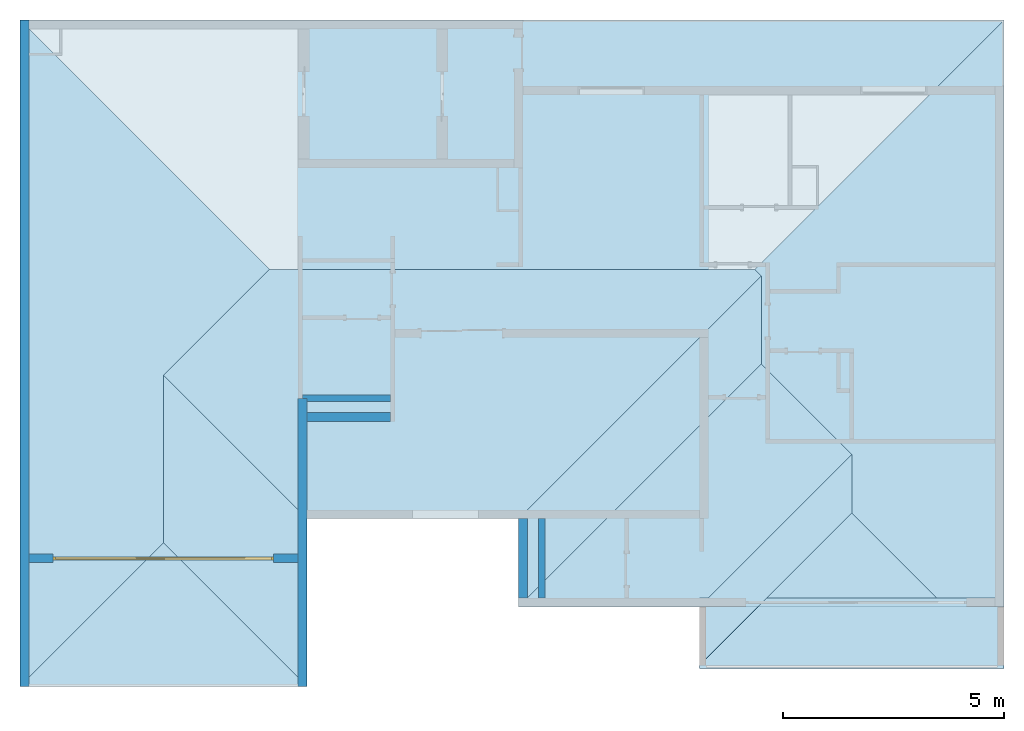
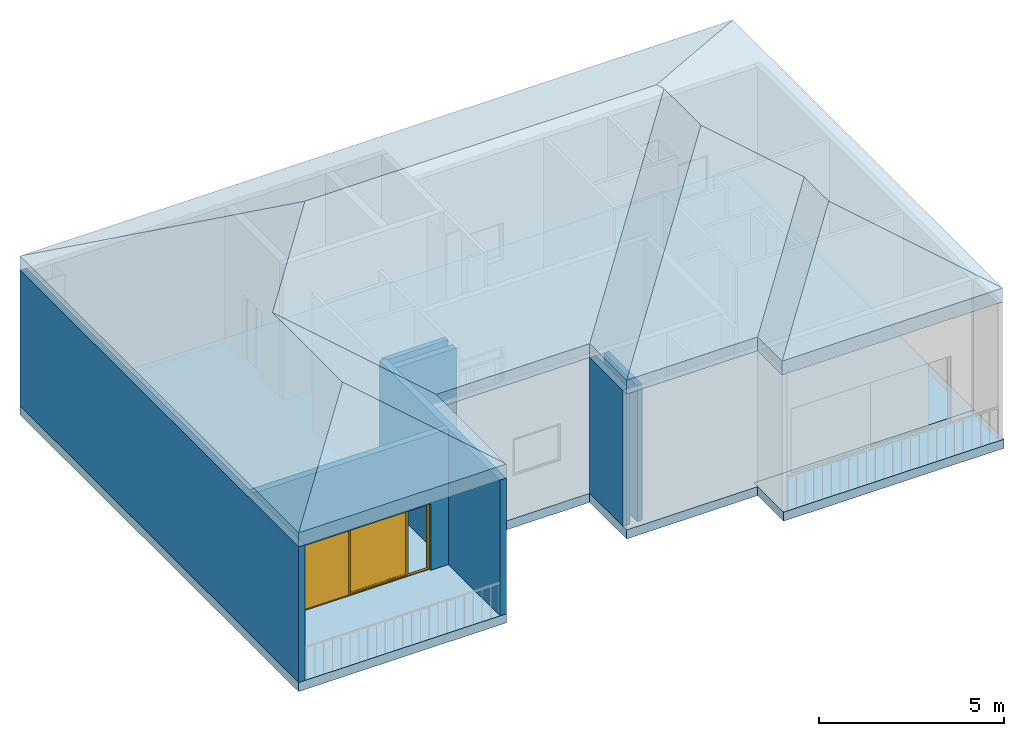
# One storey, part 1 of 8: 12 slabs, 7 walls, 1 door, 1 opening, 1 element without a shape of its own.
"""IFC2X3 building model written with IfcOpenShell, lengths in metres."""

from ifc_helpers import new_model, entity, si_unit, converted_unit, derived_unit, direction, frame, frame_2d, origin, origin_2d_with_axis, place, context, subcontext, project, spatial, polyline, rectangle, outline, extrude, faceted_brep, source, transform, mapped, material, material_list, layer, layer_set, layer_usage, type_object, type_shapes, element, fill, aggregate, save


model = new_model("IFC2X3")

# Units and contexts
model_context = context("Model", 3, precision=1e-05, world=origin(), true_north=direction((6.123031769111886e-17, 1.0)))
body_context = subcontext(model_context, "Body", "Model", "MODEL_VIEW")
ifc_project = project(units=[si_unit("LENGTHUNIT", "METRE"), si_unit("AREAUNIT", "SQUARE_METRE"), si_unit("VOLUMEUNIT", "CUBIC_METRE"), converted_unit("PLANEANGLEUNIT", "DEGREE", entity("IfcRatioMeasure", 0.017453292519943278), si_unit("PLANEANGLEUNIT", "RADIAN"), dimensions=[0, 0, 0, 0, 0, 0, 0]), si_unit("MASSUNIT", "GRAM", prefix="KILO"), derived_unit("MASSDENSITYUNIT", [(si_unit("MASSUNIT", "GRAM", prefix="KILO"), 1), (si_unit("LENGTHUNIT", "METRE"), -3)]), derived_unit("MOMENTOFINERTIAUNIT", [(si_unit("LENGTHUNIT", "METRE"), 4)]), si_unit("TIMEUNIT", "SECOND"), si_unit("FREQUENCYUNIT", "HERTZ"), si_unit("THERMODYNAMICTEMPERATUREUNIT", "DEGREE_CELSIUS"), derived_unit("THERMALTRANSMITTANCEUNIT", [(si_unit("MASSUNIT", "GRAM", prefix="KILO"), 1), (si_unit("THERMODYNAMICTEMPERATUREUNIT", "KELVIN"), -1), (si_unit("TIMEUNIT", "SECOND"), -3)]), derived_unit("VOLUMETRICFLOWRATEUNIT", [(si_unit("LENGTHUNIT", "METRE"), 3), (si_unit("TIMEUNIT", "SECOND"), -1)]), derived_unit("MASSFLOWRATEUNIT", [(si_unit("MASSUNIT", "GRAM", prefix="KILO"), 1), (si_unit("TIMEUNIT", "SECOND"), -1)]), derived_unit("ROTATIONALFREQUENCYUNIT", [(si_unit("TIMEUNIT", "SECOND"), -1)]), si_unit("ELECTRICCURRENTUNIT", "AMPERE"), si_unit("ELECTRICVOLTAGEUNIT", "VOLT"), si_unit("POWERUNIT", "WATT"), si_unit("FORCEUNIT", "NEWTON", prefix="KILO"), si_unit("ILLUMINANCEUNIT", "LUX"), si_unit("LUMINOUSFLUXUNIT", "LUMEN"), si_unit("LUMINOUSINTENSITYUNIT", "CANDELA"), derived_unit("USERDEFINED", [(si_unit("MASSUNIT", "GRAM", prefix="KILO"), -1), (si_unit("LENGTHUNIT", "METRE"), -2), (si_unit("TIMEUNIT", "SECOND"), 3), (si_unit("LUMINOUSFLUXUNIT", "LUMEN"), 1)]), derived_unit("SOUNDPOWERUNIT", [(si_unit("MASSUNIT", "GRAM", prefix="KILO"), 1), (si_unit("LENGTHUNIT", "METRE"), 2), (si_unit("TIMEUNIT", "SECOND"), -3)]), derived_unit("SOUNDPRESSUREUNIT", [(si_unit("MASSUNIT", "GRAM", prefix="KILO"), 1), (si_unit("LENGTHUNIT", "METRE"), -1), (si_unit("TIMEUNIT", "SECOND"), -2)]), derived_unit("LINEARVELOCITYUNIT", [(si_unit("LENGTHUNIT", "METRE"), 1), (si_unit("TIMEUNIT", "SECOND"), -1)]), si_unit("PRESSUREUNIT", "PASCAL"), derived_unit("USERDEFINED", [(si_unit("LENGTHUNIT", "METRE"), -2), (si_unit("MASSUNIT", "GRAM", prefix="KILO"), 1), (si_unit("TIMEUNIT", "SECOND"), -2)]), derived_unit("LINEARFORCEUNIT", [(si_unit("MASSUNIT", "GRAM", prefix="KILO"), 1), (si_unit("LENGTHUNIT", "METRE"), 1), (si_unit("TIMEUNIT", "SECOND"), -2), (si_unit("LENGTHUNIT", "METRE"), -1)]), derived_unit("PLANARFORCEUNIT", [(si_unit("MASSUNIT", "GRAM", prefix="KILO"), 1), (si_unit("LENGTHUNIT", "METRE"), 1), (si_unit("TIMEUNIT", "SECOND"), -2), (si_unit("LENGTHUNIT", "METRE"), -2)])], contexts=[model_context])

# Site, building, storey
site_placement = place(None, origin())
site = spatial("IfcSite", under=ifc_project, at=site_placement, Name="Default", CompositionType="ELEMENT")
building_placement = place(site_placement, origin())
building = spatial("IfcBuilding", under=site, at=building_placement, CompositionType="ELEMENT")
storey_placement = place(building_placement, frame((0.0, 0.0, 5.639999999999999)))
storey = spatial("IfcBuildingStorey", under=building, at=storey_placement, Name="F1", CompositionType="ELEMENT", Elevation=5.639999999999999)

# Slabs
ifc_material_1 = material(Name="Default Floor")
ifc_layer_1 = layer(ifc_material_1, 0.29999999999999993)
ifc_layer_set_1 = layer_set([ifc_layer_1], Name="Floor:Generic 300mm")
ifc_layer_usage_1 = layer_usage(ifc_layer_set_1, "AXIS3", "POSITIVE", 0.0)
slab_type_1 = type_object("IfcSlabType", Name="Floor:Generic 300mm", PredefinedType="FLOOR", material=ifc_layer_set_1)
slab_1_placement = place(storey_placement, origin())
element("IfcSlab", 1, at=slab_1_placement, inside=storey, type_object=slab_type_1, material=ifc_layer_usage_1, Name="Floor:Generic 300mm", ObjectType="Floor:Generic 300mm", PredefinedType="FLOOR", context=body_context, shape_type="SweptSolid", body=[
    extrude(outline(polyline([(-5.174999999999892, -10.025000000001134), (9.924999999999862, -10.025000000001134), (9.924999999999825, 12.275000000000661), (-3.375000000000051, 12.275000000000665), (-3.375000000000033, 1.2750000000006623), (-1.3749999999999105, 1.275000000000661), (-1.3749999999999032, -3.525000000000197), (-5.174999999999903, -3.525000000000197), (-5.174999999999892, -10.025000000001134)])), frame((16.63268321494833, -3.922392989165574, 0.0), z_axis=(0.0, 0.0, -1.0), x_axis=(0.0, 1.0, 0.0)), (0.0, 0.0, 1.0), 0.30000000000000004),
])
ifc_layer_usage_2 = layer_usage(ifc_layer_set_1, "AXIS3", "POSITIVE", 0.0)
slab_type_2 = type_object("IfcSlabType", Name="Floor:Generic 300mm", PredefinedType="FLOOR", material=ifc_layer_set_1)
slab_2_placement = place(storey_placement, origin())
element("IfcSlab", 2, at=slab_2_placement, inside=storey, type_object=slab_type_2, material=ifc_layer_usage_2, Name="Floor:Generic 300mm", ObjectType="Floor:Generic 300mm", PredefinedType="FLOOR", context=body_context, shape_type="SweptSolid", body=[
    extrude(rectangle(XDim=1.6000000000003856, YDim=6.899999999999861, at=origin_2d_with_axis()), frame((25.457683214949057, -7.8973929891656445, 0.0), z_axis=(0.0, 0.0, -1.0), x_axis=(0.0, 1.0, 0.0)), (0.0, 0.0, 1.0), 0.30000000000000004),
])

# Roof, slabs
ifc_material_2 = material(Name="Default Roof")
ifc_layer_2 = layer(ifc_material_2, 0.4)
ifc_layer_set_2 = layer_set([ifc_layer_2], Name="Basic Roof:Generic - 400mm")
roof_placement = place(storey_placement, frame((6.607683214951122, -9.09739298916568, 4.49)))
roof = element("IfcRoof", 3, at=roof_placement, inside=storey, material=ifc_layer_set_2, Name="Basic Roof:Generic - 400mm", ObjectType="Basic Roof:Generic - 400mm", ShapeType="NOTDEFINED")
slab_type_3 = type_object("IfcSlabType", Name="Basic Roof:Generic - 400mm", PredefinedType="ROOF")
slab_3_placement = place(roof_placement, origin())
slab_3 = element("IfcSlab", 4, at=slab_3_placement, type_object=slab_type_3, material=ifc_layer_set_2, Name="Basic Roof:Generic - 400mm", ObjectType="Basic Roof:Generic - 400mm", PredefinedType="ROOF", context=body_context, shape_type="SweptSolid", body=[
    extrude(outline(polyline([(-3.2499999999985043, -1.8763883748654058), (3.2499999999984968, -1.8763883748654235), (0.0, 1.8763883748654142), (-3.2499999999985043, -1.8763883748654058)])), frame((3.249999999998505, 1.624999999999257, 0.9381941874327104), z_axis=(0.0, -0.5000000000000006, 0.8660254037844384), x_axis=(1.0, 0.0, 0.0)), (0.0, 0.5000000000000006, 0.8660254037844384), 0.4618802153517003),
])
slab_type_4 = type_object("IfcSlabType", Name="Basic Roof:Generic - 400mm", PredefinedType="ROOF")
slab_4_placement = place(roof_placement, origin())
slab_4 = element("IfcSlab", 5, at=slab_4_placement, type_object=slab_type_4, material=ifc_layer_set_2, Name="Basic Roof:Generic - 400mm", ObjectType="Basic Roof:Generic - 400mm", PredefinedType="ROOF", context=body_context, shape_type="SweptSolid", body=[
    extrude(outline(polyline([(0.4899106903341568, -4.300000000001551), (0.48991069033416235, -0.5028995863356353), (3.2628660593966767, 1.8985502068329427), (-3.262866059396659, 7.550000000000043), (-3.262866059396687, -7.550000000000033), (0.4899106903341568, -4.300000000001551)])), frame((2.825724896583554, 7.550000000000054, 1.6314330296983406), z_axis=(-0.5000000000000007, 0.0, 0.8660254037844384), x_axis=(0.8660254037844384, 0.0, 0.5000000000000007)), (0.5000000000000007, 0.0, 0.8660254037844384), 0.4618802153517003),
])
slab_type_5 = type_object("IfcSlabType", Name="Basic Roof:Generic - 400mm", PredefinedType="ROOF")
slab_5_placement = place(roof_placement, origin())
slab_5 = element("IfcSlab", 6, at=slab_5_placement, type_object=slab_type_5, material=ifc_layer_set_2, Name="Basic Roof:Generic - 400mm", ObjectType="Basic Roof:Generic - 400mm", PredefinedType="ROOF", context=body_context, shape_type="SweptSolid", body=[
    extrude(outline(polyline([(11.149999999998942, 3.262866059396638), (-11.149999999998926, 3.2628660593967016), (-5.498550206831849, -3.262866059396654), (5.498550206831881, -3.262866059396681), (11.149999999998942, 3.262866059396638)])), frame((11.149999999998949, 12.27427510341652, 1.6314330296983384), z_axis=(0.0, 0.5000000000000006, 0.8660254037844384), x_axis=(1.0, 0.0, 0.0)), (0.0, -0.5000000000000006, 0.8660254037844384), 0.4618802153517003),
])
slab_type_6 = type_object("IfcSlabType", Name="Basic Roof:Generic - 400mm", PredefinedType="ROOF")
slab_6_placement = place(roof_placement, origin())
slab_6 = element("IfcSlab", 7, at=slab_6_placement, type_object=slab_type_6, material=ifc_layer_set_2, Name="Basic Roof:Generic - 400mm", ObjectType="Basic Roof:Generic - 400mm", PredefinedType="ROOF", context=body_context, shape_type="SweptSolid", body=[
    extrude(outline(polyline([(3.262866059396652, -7.312500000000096), (3.262866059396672, 7.312500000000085), (-3.2628660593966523, 1.661050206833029), (-3.0879869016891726, 1.509600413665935), (-3.087986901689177, -0.48749999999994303), (-0.7208507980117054, -2.537499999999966), (-0.7208507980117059, -3.862500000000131), (3.262866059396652, -7.312500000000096)])), frame((19.474275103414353, 7.7874999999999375, 1.6314330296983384), z_axis=(0.5000000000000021, 0.0, 0.8660254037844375), x_axis=(0.8660254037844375, 0.0, -0.5000000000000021)), (-0.5000000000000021, 0.0, 0.8660254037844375), 0.4618802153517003),
])
slab_type_7 = type_object("IfcSlabType", Name="Basic Roof:Generic - 400mm", PredefinedType="ROOF")
slab_7_placement = place(roof_placement, origin())
slab_7 = element("IfcSlab", 8, at=slab_7_placement, type_object=slab_type_7, material=ifc_layer_set_2, Name="Basic Roof:Generic - 400mm", ObjectType="Basic Roof:Generic - 400mm", PredefinedType="ROOF", context=body_context, shape_type="SweptSolid", body=[
    extrude(outline(polyline([(-3.4499999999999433, -1.9918584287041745), (3.449999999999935, -1.991858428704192), (0.0, 1.9918584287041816), (-3.4499999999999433, -1.9918584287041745)])), frame((18.849999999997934, 2.19999999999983, 0.9959292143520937), z_axis=(0.0, -0.5000000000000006, 0.8660254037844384), x_axis=(1.0, 0.0, 0.0)), (0.0, 0.5000000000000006, 0.8660254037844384), 0.4618802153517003),
])
slab_type_8 = type_object("IfcSlabType", Name="Basic Roof:Generic - 400mm", PredefinedType="ROOF")
slab_8_placement = place(roof_placement, origin())
slab_8 = element("IfcSlab", 9, at=slab_8_placement, type_object=slab_type_8, material=ifc_layer_set_2, Name="Basic Roof:Generic - 400mm", ObjectType="Basic Roof:Generic - 400mm", PredefinedType="ROOF", context=body_context, shape_type="SweptSolid", body=[
    extrude(outline(polyline([(-1.9918584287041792, -2.387500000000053), (1.9918584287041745, 1.0624999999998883), (1.9918584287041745, 2.3875000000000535), (-1.9918584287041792, -1.062499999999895), (-1.9918584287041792, -2.387500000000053)])), frame((17.124999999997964, 2.8624999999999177, 0.9959292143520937), z_axis=(-0.5000000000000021, 0.0, 0.8660254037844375), x_axis=(0.8660254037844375, 0.0, 0.5000000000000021)), (0.5000000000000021, 0.0, 0.8660254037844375), 0.4618802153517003),
])
slab_type_9 = type_object("IfcSlabType", Name="Basic Roof:Generic - 400mm", PredefinedType="ROOF")
slab_9_placement = place(roof_placement, origin())
slab_9 = element("IfcSlab", 10, at=slab_9_placement, type_object=slab_type_9, material=ifc_layer_set_2, Name="Basic Roof:Generic - 400mm", ObjectType="Basic Roof:Generic - 400mm", PredefinedType="ROOF", context=body_context, shape_type="SweptSolid", body=[
    extrude(outline(polyline([(-3.7750000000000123, -3.175426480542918), (0.32500000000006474, -3.1754264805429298), (3.775000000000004, 0.808290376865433), (1.7249999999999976, 3.1754264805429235), (-3.7750000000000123, -3.175426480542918)])), frame((15.074999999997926, 4.550000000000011, 1.5877132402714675), z_axis=(0.0, -0.5000000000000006, 0.8660254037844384), x_axis=(1.0, 0.0, 0.0)), (0.0, 0.5000000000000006, 0.8660254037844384), 0.4618802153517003),
])
slab_type_10 = type_object("IfcSlabType", Name="Basic Roof:Generic - 400mm", PredefinedType="ROOF")
slab_10_placement = place(roof_placement, origin())
slab_10 = element("IfcSlab", 11, at=slab_10_placement, type_object=slab_type_10, material=ifc_layer_set_2, Name="Basic Roof:Generic - 400mm", ObjectType="Basic Roof:Generic - 400mm", PredefinedType="ROOF", context=body_context, shape_type="SweptSolid", body=[
    extrude(outline(polyline([(-3.1754264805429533, -3.748550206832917), (3.175426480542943, 1.7514497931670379), (3.1754264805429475, 3.748550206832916), (-3.175426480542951, -1.7514497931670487), (-3.1754264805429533, -3.748550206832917)])), frame((14.049999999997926, 5.548550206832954, 1.5877132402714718), z_axis=(-0.499999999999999, 0.0, 0.8660254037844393), x_axis=(0.8660254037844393, 0.0, 0.499999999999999)), (0.499999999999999, 0.0, 0.8660254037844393), 0.4618802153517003),
])
slab_type_11 = type_object("IfcSlabType", Name="Basic Roof:Generic - 400mm", PredefinedType="ROOF")
slab_11_placement = place(roof_placement, origin())
slab_11 = element("IfcSlab", 12, at=slab_11_placement, type_object=slab_type_11, material=ifc_layer_set_2, Name="Basic Roof:Generic - 400mm", ObjectType="Basic Roof:Generic - 400mm", PredefinedType="ROOF", context=body_context, shape_type="SweptSolid", body=[
    extrude(outline(polyline([(-3.5250000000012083, -3.26286605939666), (1.2749999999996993, -3.2628660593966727), (6.774999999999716, 3.08798690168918), (6.623550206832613, 3.2628660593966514), (-4.373550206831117, 3.2628660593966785), (-6.774999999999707, 0.48991069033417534), (-3.5250000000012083, -3.26286605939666)])), frame((10.024999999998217, 6.622825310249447, 1.6314330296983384), z_axis=(0.0, -0.5000000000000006, 0.8660254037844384), x_axis=(1.0, 0.0, 0.0)), (0.0, 0.5000000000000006, 0.8660254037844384), 0.4618802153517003),
])
slab_type_12 = type_object("IfcSlabType", Name="Basic Roof:Generic - 400mm", PredefinedType="ROOF")
slab_12_placement = place(roof_placement, origin())
slab_12 = element("IfcSlab", 13, at=slab_12_placement, type_object=slab_type_12, material=ifc_layer_set_2, Name="Basic Roof:Generic - 400mm", ObjectType="Basic Roof:Generic - 400mm", PredefinedType="ROOF", context=body_context, shape_type="SweptSolid", body=[
    extrude(outline(polyline([(1.8763883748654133, -3.52355020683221), (1.8763883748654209, 0.2735502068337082), (-1.8763883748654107, 3.523550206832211), (-1.876388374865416, -0.273550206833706), (1.8763883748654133, -3.52355020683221)])), frame((4.874999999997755, 3.52355020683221, 0.9381941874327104), z_axis=(0.499999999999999, 0.0, 0.8660254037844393), x_axis=(0.8660254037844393, 0.0, -0.499999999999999)), (-0.499999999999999, 0.0, 0.8660254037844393), 0.4618802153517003),
])
aggregate(roof, [slab_3, slab_4, slab_5, slab_6, slab_7, slab_8, slab_9, slab_10, slab_11, slab_12])

# Walls
ifc_material_3 = material(Name="Masonry - Concrete Block")
ifc_layer_3 = layer(ifc_material_3, 0.2)
ifc_layer_set_3 = layer_set([ifc_layer_3], Name="Basic Wall:CW 200")
ifc_layer_usage_3 = layer_usage(ifc_layer_set_3, "AXIS2", "NEGATIVE", 0.1)
wall_type_1 = type_object("IfcWallType", Name="Basic Wall:CW 200", PredefinedType="STANDARD", material=ifc_layer_set_3)
wall_1_placement = place(storey_placement, frame((6.707683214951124, -9.097392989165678, 0.0), z_axis=(0.0, 0.0, 1.0), x_axis=(0.0, 1.0, 0.0)))
element("IfcWallStandardCase", 14, at=wall_1_placement, inside=storey, type_object=wall_type_1, material=ifc_layer_usage_3, Name="Basic Wall:CW 200", ObjectType="Basic Wall:CW 200", context=body_context, shape_type="SweptSolid", body=[
    extrude(rectangle(XDim=15.100000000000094, YDim=0.2, at=frame_2d((7.550000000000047, 1.5959455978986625e-16), x_axis=(-1.0, 0.0))), origin(), (0.0, 0.0, 1.0), 4.490000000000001),
])
ifc_layer_usage_4 = layer_usage(ifc_layer_set_3, "AXIS2", "NEGATIVE", 0.1)
wall_2_placement = place(storey_placement, frame((13.007683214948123, -9.097392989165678, 0.0), z_axis=(0.0, 0.0, 1.0), x_axis=(0.0, 1.0, 0.0)))
element("IfcWallStandardCase", 15, at=wall_2_placement, inside=storey, type_object=wall_type_1, material=ifc_layer_usage_4, Name="Basic Wall:CW 200", ObjectType="Basic Wall:CW 200", context=body_context, shape_type="SweptSolid", body=[
    extrude(rectangle(XDim=6.52500000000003, YDim=0.19999999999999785, at=frame_2d((3.262500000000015, -3.469446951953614e-17), x_axis=(-1.0, 0.0))), origin(), (0.0, 0.0, 1.0), 4.490000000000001),
])

# Wall, opening, door
ifc_layer_usage_5 = layer_usage(ifc_layer_set_3, "AXIS2", "NEGATIVE", 0.1)
wall_3_placement = place(storey_placement, frame((12.907683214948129, -6.197392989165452, 0.0), z_axis=(0.0, 0.0, 1.0), x_axis=(-1.0, 0.0, 0.0)))
wall_3 = element("IfcWallStandardCase", 16, at=wall_3_placement, inside=storey, type_object=wall_type_1, material=ifc_layer_usage_5, Name="Basic Wall:CW 200", ObjectType="Basic Wall:CW 200", context=body_context, shape_type="SweptSolid", body=[
    extrude(rectangle(XDim=6.099999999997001, YDim=0.2, at=frame_2d((3.0499999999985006, 0.0), x_axis=(1.0, 0.0))), origin(), (0.0, 0.0, 1.0), 4.490000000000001),
])
opening_placement = place(wall_3_placement, frame((5.549999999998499, 0.09999999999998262, 0.0)))
opening = element("IfcOpeningElement", 17, at=opening_placement, cuts=wall_3, Name="Parametric_Operable_Sliding_Door_6386.0004:5M:1", ObjectType="Opening", context=body_context, shape_type="SweptSolid", body=[
    extrude(rectangle(XDim=2.199999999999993, YDim=4.999999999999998, at=frame_2d((1.0999999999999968, 2.499999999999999), x_axis=(1.0, 0.0))), frame((0.0, 0.0, 0.0), z_axis=(0.0, -1.0, 0.0), x_axis=(0.0, 0.0, 1.0)), (0.0, 0.0, 1.0), 0.2),
])
ifc_material_4 = material(Name="Window Glass")
ifc_material_5 = material(Name="Window Frame")
ifc_material_list_1 = material_list([ifc_material_4, ifc_material_5])
ifc_material_list_2 = material_list([ifc_material_4, ifc_material_5, ifc_material_4, ifc_material_5])
door_style = type_object("IfcDoorStyle", Name="Parametric_Operable_Sliding_Door_6386.0004:5M", ConstructionType="NOTDEFINED", OperationType="NOTDEFINED", ParameterTakesPrecedence=False, Sizeable=False, material=ifc_material_list_2)
shared_shape = source(origin(), body_context, "Body", "Brep", [
    faceted_brep([(0.7200000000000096, 0.0875000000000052, 2.080000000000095), (0.7200000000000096, 0.0875000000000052, 0.07000000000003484), (0.7200000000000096, 0.0775000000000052, 0.07000000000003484), (0.7200000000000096, 0.0775000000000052, 2.080000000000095), (3.0550000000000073, 0.0875000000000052, 2.080000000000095), (3.0550000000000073, 0.0875000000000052, 0.07000000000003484), (3.0550000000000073, 0.0775000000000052, 0.07000000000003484), (3.0550000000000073, 0.0775000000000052, 2.080000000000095)], [[[0, 1, 2, 3]], [[1, 0, 4, 5]], [[2, 1, 5, 6]], [[3, 2, 6, 7]], [[4, 7, 6, 5]], [[0, 3, 7, 4]]]),
    faceted_brep([(0.7200000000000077, 0.09499999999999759, 0.06999999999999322), (0.7200000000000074, 0.06999999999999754, 0.06999999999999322), (3.055000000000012, 0.06999999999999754, 0.06999999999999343), (3.055000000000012, 0.09499999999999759, 0.0699999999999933), (0.7200000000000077, 0.09499999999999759, 2.080000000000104), (0.7200000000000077, 0.06999999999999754, 2.080000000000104), (3.05500000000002, 0.09499999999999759, 2.080000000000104), (3.125000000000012, 0.09499999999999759, 2.150000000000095), (3.125000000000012, 0.09499999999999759, 0.02500000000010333), (0.6500000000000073, 0.09499999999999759, 0.0250000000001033), (0.6500000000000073, 0.09499999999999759, 2.1499999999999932), (3.055000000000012, 0.06999999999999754, 2.080000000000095), (0.6500000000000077, 0.06999999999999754, 2.1500000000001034), (0.6500000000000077, 0.06999999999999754, 0.02500000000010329), (3.125000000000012, 0.06999999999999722, 0.02500000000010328), (3.125000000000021, 0.06999999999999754, 2.1499999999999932), (0.04999999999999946, 0.06500000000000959, 0.02500000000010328), (4.949999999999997, 0.06499999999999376, 0.025000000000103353), (4.949999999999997, 0.13499999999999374, 0.025000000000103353), (0.05, 0.13500000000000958, 0.02500000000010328), (5.0, 0.0649999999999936, 0.0), (5.0, 0.0649999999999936, 2.199999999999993), (0.0, 0.06500000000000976, 2.199999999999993), (0.0, 0.06500000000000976, 0.0), (0.05, 0.06500000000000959, 2.1499999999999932), (4.949999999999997, 0.06499999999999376, 2.1499999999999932), (0.0, 0.13500000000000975, 0.0), (5.0, 0.1349999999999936, 0.0), (0.0, 0.13500000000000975, 2.199999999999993), (5.0, 0.1349999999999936, 2.199999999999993), (0.05, 0.13500000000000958, 2.1499999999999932), (4.949999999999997, 0.13499999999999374, 2.1499999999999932)], [[[0, 1, 2, 3]], [[1, 0, 4, 5]], [[4, 0, 3, 6], [7, 8, 9, 10]], [[1, 5, 11, 2], [12, 13, 14, 15]], [[13, 12, 10, 9]], [[13, 9, 8, 14], [16, 17, 18, 19]], [[11, 6, 3, 2]], [[15, 14, 8, 7]], [[20, 21, 22, 23], [24, 25, 17, 16]], [[20, 23, 26, 27]], [[23, 22, 28, 26]], [[27, 26, 28, 29], [30, 19, 18, 31]], [[21, 20, 27, 29]], [[17, 25, 31, 18]], [[24, 16, 19, 30]], [[5, 4, 6, 11]], [[22, 21, 29, 28]], [[10, 12, 15, 7], [25, 24, 30, 31]]], outer=[[True], [True], [False, True], [False, True], [True], [False, True], [True], [True], [True, False], [True], [True], [True, False], [True], [True], [True], [True], [True], [False, True]]),
    faceted_brep([(2.5249999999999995, 0.11499999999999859, 2.1499999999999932), (2.5249999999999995, 0.11499999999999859, 0.02500000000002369), (4.949999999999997, 0.11499999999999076, 0.02500000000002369), (4.949999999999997, 0.11499999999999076, 2.1499999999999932), (2.5249999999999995, 0.12099999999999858, 2.1499999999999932), (2.5249999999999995, 0.12099999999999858, 0.02500000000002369), (4.949999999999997, 0.12099999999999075, 0.02500000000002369), (4.949999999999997, 0.12099999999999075, 2.1499999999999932)], [[[0, 1, 2, 3]], [[1, 0, 4, 5]], [[2, 1, 5, 6]], [[3, 2, 6, 7]], [[4, 7, 6, 5]], [[0, 3, 7, 4]]]),
    faceted_brep([(2.474999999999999, 0.09999999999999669, 2.1499999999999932), (2.474999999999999, 0.09999999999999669, 0.025000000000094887), (2.5249999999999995, 0.09999999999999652, 0.02500000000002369), (2.5249999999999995, 0.09999999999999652, 2.1499999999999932), (2.474999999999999, 0.1300000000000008, 2.1499999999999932), (2.474999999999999, 0.1300000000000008, 0.025000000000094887), (2.5249999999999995, 0.13000000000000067, 0.02500000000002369), (2.5249999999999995, 0.13000000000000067, 2.1499999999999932)], [[[0, 1, 2, 3]], [[1, 0, 4, 5]], [[2, 1, 5, 6]], [[3, 2, 6, 7]], [[4, 7, 6, 5]], [[0, 3, 7, 4]]]),
])
type_shapes(door_style, [shared_shape])
door_placement = place(opening_placement, frame((-5.0, -0.1999999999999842, 0.0)))
door = element("IfcDoor", 18, at=door_placement, inside=storey, type_object=door_style, material=ifc_material_list_1, Name="Parametric_Operable_Sliding_Door_6386.0004:5M", ObjectType="Parametric_Operable_Sliding_Door_6386.0004:5M", OverallHeight=2.1999999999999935, OverallWidth=4.999999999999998, context=body_context, shape_type="MappedRepresentation", body=[
    mapped(shared_shape, transform((0.0, 0.0, 0.0), scale=1.0)),
])
fill(opening, door)

# Walls
ifc_layer_usage_6 = layer_usage(ifc_layer_set_3, "AXIS2", "NEGATIVE", 0.1)
wall_4_placement = place(storey_placement, frame((13.107683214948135, -2.997392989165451, 0.0)))
element("IfcWallStandardCase", 19, at=wall_4_placement, inside=storey, type_object=wall_type_1, material=ifc_layer_usage_6, Name="Basic Wall:CW 200", ObjectType="Basic Wall:CW 200", context=body_context, shape_type="SweptSolid", body=[
    extrude(rectangle(XDim=1.900000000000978, YDim=0.2, at=frame_2d((0.950000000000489, 1.1102230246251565e-16), x_axis=(-1.0, 0.0))), origin(), (0.0, 0.0, 1.0), 4.490000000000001),
])
ifc_layer_usage_7 = layer_usage(ifc_layer_set_3, "AXIS2", "NEGATIVE", 0.1)
wall_5_placement = place(storey_placement, frame((18.007683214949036, -7.097392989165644, 0.0), z_axis=(0.0, 0.0, 1.0), x_axis=(0.0, 1.0, 0.0)))
element("IfcWallStandardCase", 20, at=wall_5_placement, inside=storey, type_object=wall_type_1, material=ifc_layer_usage_7, Name="Basic Wall:CW 200", ObjectType="Basic Wall:CW 200", context=body_context, shape_type="SweptSolid", body=[
    extrude(rectangle(XDim=1.7971004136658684, YDim=0.19999999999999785, at=frame_2d((0.8985502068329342, -5.551115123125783e-17), x_axis=(-1.0, 0.0))), origin(), (0.0, 0.0, 1.0), 4.490000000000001),
])
ifc_layer_4 = layer(ifc_material_3, 0.14999999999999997)
ifc_layer_set_4 = layer_set([ifc_layer_4], Name="Basic Wall:CW 150")
ifc_layer_usage_8 = layer_usage(ifc_layer_set_4, "AXIS2", "NEGATIVE", 0.07499999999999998)
wall_type_2 = type_object("IfcWallType", Name="Basic Wall:CW 150", PredefinedType="STANDARD", material=ifc_layer_set_4)
wall_6_placement = place(storey_placement, frame((15.007683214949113, -2.5723929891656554, 0.0), z_axis=(0.0, 0.0, 1.0), x_axis=(-1.0, 0.0, 0.0)))
element("IfcWallStandardCase", 21, at=wall_6_placement, inside=storey, type_object=wall_type_2, material=ifc_layer_usage_8, Name="Basic Wall:CW 150", ObjectType="Basic Wall:CW 150", context=body_context, shape_type="SweptSolid", body=[
    extrude(outline(polyline([(-0.07500000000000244, -0.7000000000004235), (0.0, -0.7000000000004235), (0.0, -0.6000000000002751), (0.07499999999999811, -0.6000000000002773), (0.07500000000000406, 1.300000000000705), (-0.07499999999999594, 1.300000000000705), (-0.07500000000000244, -0.7000000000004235)])), frame((1.3000000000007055, 0.0, 0.0), z_axis=(0.0, 0.0, 1.0), x_axis=(0.0, 1.0, 0.0)), (0.0, 0.0, 1.0), 4.49),
])
ifc_layer_usage_9 = layer_usage(ifc_layer_set_4, "AXIS2", "NEGATIVE", 0.07499999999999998)
wall_7_placement = place(storey_placement, frame((18.432683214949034, -5.300292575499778, 0.0), z_axis=(0.0, 0.0, 1.0), x_axis=(0.0, -1.0, 0.0)))
element("IfcWallStandardCase", 22, at=wall_7_placement, inside=storey, type_object=wall_type_2, material=ifc_layer_usage_9, Name="Basic Wall:CW 150", ObjectType="Basic Wall:CW 150", context=body_context, shape_type="SweptSolid", body=[
    extrude(rectangle(XDim=1.797100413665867, YDim=0.15000000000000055, at=frame_2d((0.8985502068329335, -5.551115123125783e-17), x_axis=(-1.0, 0.0))), origin(), (0.0, 0.0, 1.0), 4.490000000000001),
])

save(model, "model.ifc")
